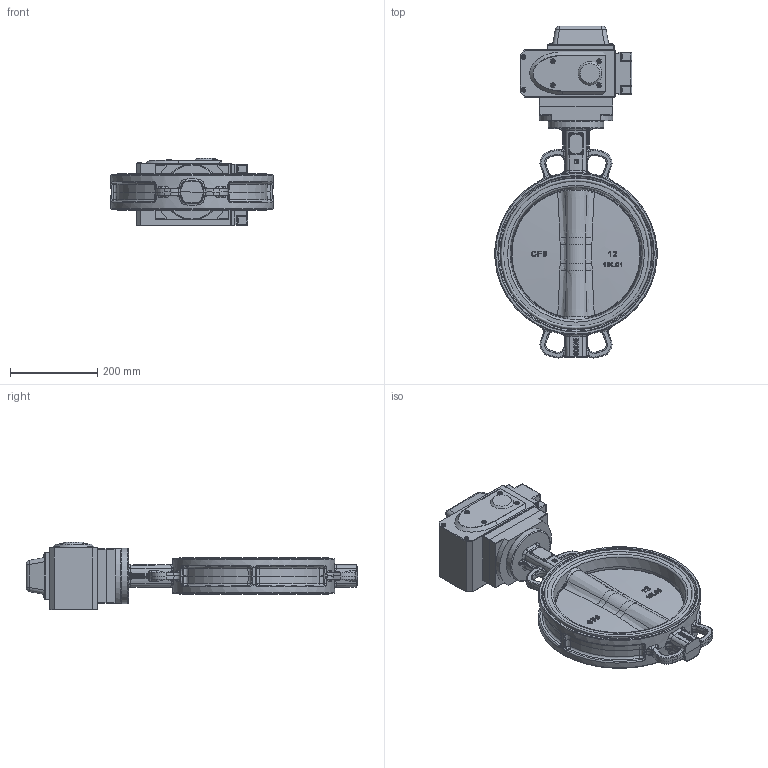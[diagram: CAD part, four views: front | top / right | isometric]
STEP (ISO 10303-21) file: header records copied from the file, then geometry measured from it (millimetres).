
FILE_DESCRIPTION(/* description */ (''),/* implementation_level */ '2;1');
FILE_NAME(/* name */ 'RSV81A220_380-DN300.stp',/* time_stamp */ '2024-08-20T14:11:20+07:00',/* author */ ('Eva'),/* organization */ (''),/* preprocessor_version */ 'ST-DEVELOPER v20',/* originating_system */ 'Autodesk Inventor 2025',/* authorisation */ '');
FILE_SCHEMA (('AUTOMOTIVE_DESIGN { 1 0 10303 214 3 1 1 }'));
Products named in the file (10): RSV81A220_380-DN300; 12; DN300·§°е; DN300·§°е_1; DN300·§°е_2; DN300·§°е_3; DN300·§°е_4; DN300·§°е_5; DN300Ин·§Чщ; ѕ«РЎРНµзЧ°
Assembly tree (9 placements, depth 2):
  RSV81A220_380-DN300
    12
    DN300·§°е
    DN300·§°е_1
    DN300·§°е_2
    DN300·§°е_3
    DN300·§°е_4
    DN300·§°е_5
    DN300Ин·§Чщ
    ѕ«РЎРНµзЧ°
Bounding box: 373.08 x 762.39 x 156 mm (x, y, z)
Volume: 10059110.9 mm3; surface area: 980870.7 mm2
Topology: 9 solids, 9 shells, 1662 faces, 4083 edges, 2431 vertices
Faces by surface type: bspline 648, plane 471, cylinder 270, torus 146, cone 95, sphere 32
Full cylindrical faces by diameter (mm): 11.037 x4, 11.059 x6, 11.745 x4, 31 x1, 31.6 x1, 31.9 x6, 34 x1, 38 x1, 128 x1, 313.4 x2, 345.4 x2
Entity records: 108027 total; most frequent: CARTESIAN_POINT 72384, ORIENTED_EDGE 8062, DIRECTION 6281, EDGE_CURVE 4031, AXIS2_PLACEMENT_3D 2553, VERTEX_POINT 2431, EDGE_LOOP 1730, FACE_OUTER_BOUND 1662
